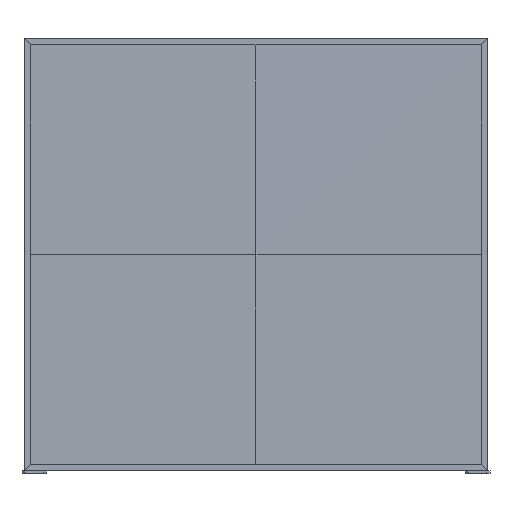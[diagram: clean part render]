
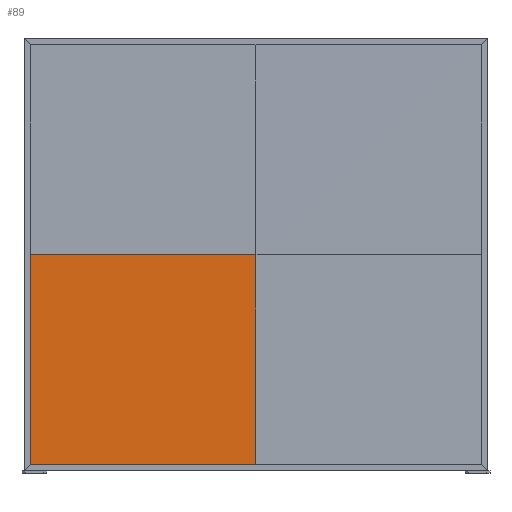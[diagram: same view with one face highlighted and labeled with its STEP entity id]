
A CAD part, front view. The second image highlights one B-rep face of the part: STEP entity #89.
In plain terms, the highlighted free-form (B-spline) face has degree [3, 3] with [6, 6] control points.
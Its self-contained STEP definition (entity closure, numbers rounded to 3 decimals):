
#34=B_SPLINE_SURFACE_WITH_KNOTS('',3,3,((#1959,#1960,#1961,#1962,#1963,
#1964),(#1965,#1966,#1967,#1968,#1969,#1970),(#1971,#1972,#1973,#1974,#1975,
#1976),(#1977,#1978,#1979,#1980,#1981,#1982),(#1983,#1984,#1985,#1986,#1987,
#1988),(#1989,#1990,#1991,#1992,#1993,#1994)),.UNSPECIFIED.,.F.,.F.,.F.,
(4,1,1,4),(4,1,1,4),(0.,60.,90.,430.),(-680.,-620.,-590.,0.),
 .UNSPECIFIED.);
#89=ADVANCED_FACE('',(#173),#34,.T.);
#173=FACE_OUTER_BOUND('',#261,.T.);
#261=EDGE_LOOP('',(#437,#438,#439,#440));
#437=ORIENTED_EDGE('',*,*,#761,.T.);
#438=ORIENTED_EDGE('',*,*,#762,.T.);
#439=ORIENTED_EDGE('',*,*,#763,.T.);
#440=ORIENTED_EDGE('',*,*,#764,.T.);
#761=EDGE_CURVE('',#1136,#1137,#981,.T.);
#762=EDGE_CURVE('',#1137,#1138,#982,.T.);
#763=EDGE_CURVE('',#1138,#1139,#983,.T.);
#764=EDGE_CURVE('',#1139,#1136,#984,.T.);
#981=B_SPLINE_CURVE_WITH_KNOTS('',3,(#2112,#2113,#2114,#2115,#2116,#2117),
 .UNSPECIFIED.,.F.,.F.,(4,1,1,4),(0.,590.,620.,680.),.UNSPECIFIED.);
#982=B_SPLINE_CURVE_WITH_KNOTS('',3,(#2118,#2119,#2120,#2121,#2122,#2123),
 .UNSPECIFIED.,.F.,.F.,(4,1,1,4),(0.,60.,90.,430.),
 .UNSPECIFIED.);
#983=B_SPLINE_CURVE_WITH_KNOTS('',3,(#2124,#2125,#2126,#2127,#2128,#2129),
 .UNSPECIFIED.,.F.,.F.,(4,1,1,4),(0.,60.,90.,680.),.UNSPECIFIED.);
#984=B_SPLINE_CURVE_WITH_KNOTS('',3,(#2130,#2131,#2132,#2133,#2134,#2135),
 .UNSPECIFIED.,.F.,.F.,(4,1,1,4),(0.,340.,370.,430.),.UNSPECIFIED.);
#1136=VERTEX_POINT('',#2103);
#1137=VERTEX_POINT('',#2104);
#1138=VERTEX_POINT('',#2105);
#1139=VERTEX_POINT('',#2106);
#1959=CARTESIAN_POINT('',(-730.,-8.,28.));
#1960=CARTESIAN_POINT('',(-730.,-8.,48.));
#1961=CARTESIAN_POINT('',(-730.,-8.,78.));
#1962=CARTESIAN_POINT('',(-730.,-8.,304.667));
#1963=CARTESIAN_POINT('',(-730.,-8.,511.333));
#1964=CARTESIAN_POINT('',(-730.,-8.,708.));
#1965=CARTESIAN_POINT('',(-710.,-8.,28.));
#1966=CARTESIAN_POINT('',(-710.,-11.,48.));
#1967=CARTESIAN_POINT('',(-710.,-11.,78.));
#1968=CARTESIAN_POINT('',(-710.,-11.,304.667));
#1969=CARTESIAN_POINT('',(-710.,-11.,511.333));
#1970=CARTESIAN_POINT('',(-710.,-11.,708.));
#1971=CARTESIAN_POINT('',(-680.,-8.,28.));
#1972=CARTESIAN_POINT('',(-680.,-11.,48.));
#1973=CARTESIAN_POINT('',(-680.,-11.,78.));
#1974=CARTESIAN_POINT('',(-680.,-11.,304.667));
#1975=CARTESIAN_POINT('',(-680.,-11.,511.333));
#1976=CARTESIAN_POINT('',(-680.,-11.,708.));
#1977=CARTESIAN_POINT('',(-436.667,-8.,28.));
#1978=CARTESIAN_POINT('',(-436.667,-11.,48.));
#1979=CARTESIAN_POINT('',(-436.667,-11.,78.));
#1980=CARTESIAN_POINT('',(-436.667,-11.,304.667));
#1981=CARTESIAN_POINT('',(-436.667,-11.,511.333));
#1982=CARTESIAN_POINT('',(-436.667,-11.,708.));
#1983=CARTESIAN_POINT('',(-213.333,-8.,28.));
#1984=CARTESIAN_POINT('',(-213.333,-11.,48.));
#1985=CARTESIAN_POINT('',(-213.333,-11.,78.));
#1986=CARTESIAN_POINT('',(-213.333,-11.,304.667));
#1987=CARTESIAN_POINT('',(-213.333,-11.,511.333));
#1988=CARTESIAN_POINT('',(-213.333,-11.,708.));
#1989=CARTESIAN_POINT('',(0.,-8.,28.));
#1990=CARTESIAN_POINT('',(0.,-11.,48.));
#1991=CARTESIAN_POINT('',(0.,-11.,78.));
#1992=CARTESIAN_POINT('',(0.,-11.,304.667));
#1993=CARTESIAN_POINT('',(0.,-11.,511.333));
#1994=CARTESIAN_POINT('',(0.,-11.,708.));
#2103=CARTESIAN_POINT('',(-730.,-8.,708.));
#2104=CARTESIAN_POINT('',(-730.,-8.,28.));
#2105=CARTESIAN_POINT('',(0.,-8.,28.));
#2106=CARTESIAN_POINT('',(0.,-11.,708.));
#2112=CARTESIAN_POINT('',(-730.,-8.,708.));
#2113=CARTESIAN_POINT('',(-730.,-8.,511.333));
#2114=CARTESIAN_POINT('',(-730.,-8.,304.667));
#2115=CARTESIAN_POINT('',(-730.,-8.,78.));
#2116=CARTESIAN_POINT('',(-730.,-8.,48.));
#2117=CARTESIAN_POINT('',(-730.,-8.,28.));
#2118=CARTESIAN_POINT('',(-730.,-8.,28.));
#2119=CARTESIAN_POINT('',(-710.,-8.,28.));
#2120=CARTESIAN_POINT('',(-680.,-8.,28.));
#2121=CARTESIAN_POINT('',(-436.667,-8.,28.));
#2122=CARTESIAN_POINT('',(-213.333,-8.,28.));
#2123=CARTESIAN_POINT('',(0.,-8.,28.));
#2124=CARTESIAN_POINT('',(0.,-8.,28.));
#2125=CARTESIAN_POINT('',(0.,-11.,48.));
#2126=CARTESIAN_POINT('',(0.,-11.,78.));
#2127=CARTESIAN_POINT('',(0.,-11.,304.667));
#2128=CARTESIAN_POINT('',(0.,-11.,511.333));
#2129=CARTESIAN_POINT('',(0.,-11.,708.));
#2130=CARTESIAN_POINT('',(0.,-11.,708.));
#2131=CARTESIAN_POINT('',(-213.333,-11.,708.));
#2132=CARTESIAN_POINT('',(-436.667,-11.,708.));
#2133=CARTESIAN_POINT('',(-680.,-11.,708.));
#2134=CARTESIAN_POINT('',(-710.,-11.,708.));
#2135=CARTESIAN_POINT('',(-730.,-8.,708.));
